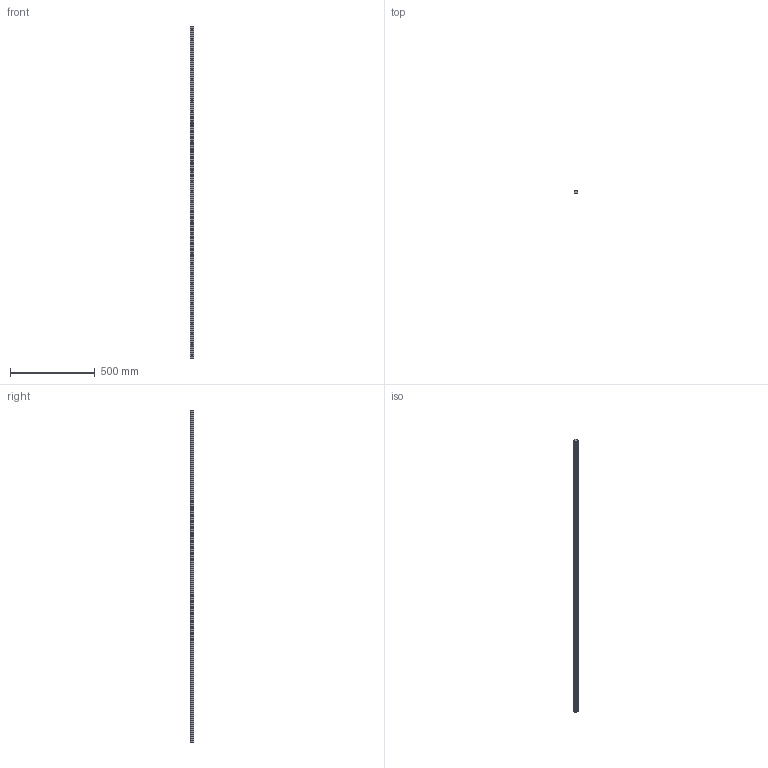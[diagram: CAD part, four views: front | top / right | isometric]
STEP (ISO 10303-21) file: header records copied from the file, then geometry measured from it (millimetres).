
FILE_DESCRIPTION (( 'STEP AP203' ), '1' );
FILE_NAME ('L1016.BL25-1960.step', '2019-06-12T12:09:30', ( '' ), ( '' ), 'SwSTEP 2.0', 'SolidWorks 2017', '' );
FILE_SCHEMA (( 'CONFIG_CONTROL_DESIGN' ));
Length unit declared in the file: millimetre
Products named in the file (1): L1016.BL25-1960
Bounding box: 23 x 19.2 x 1960 mm (x, y, z)
Volume: 722151.4 mm3; surface area: 185758.9 mm2
Topology: 1 solids, 1 shells, 191 faces, 468 edges, 312 vertices
Faces by surface type: cylinder 136, plane 55
Entity records: 5983 total; most frequent: DIRECTION 1124, CARTESIAN_POINT 972, ORIENTED_EDGE 936, EDGE_CURVE 468, AXIS2_PLACEMENT_3D 464, VERTEX_POINT 312, EDGE_LOOP 290, CIRCLE 272
